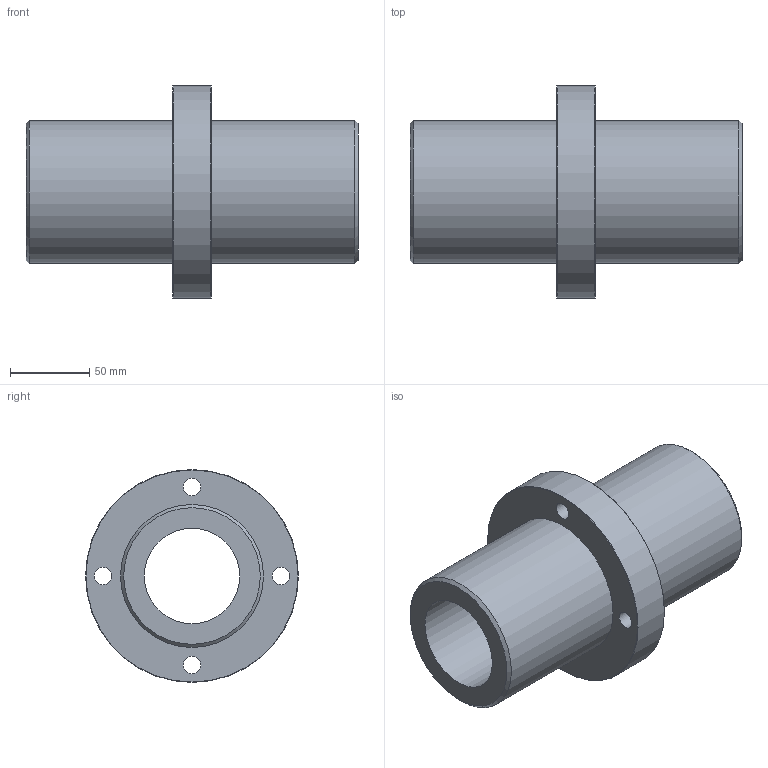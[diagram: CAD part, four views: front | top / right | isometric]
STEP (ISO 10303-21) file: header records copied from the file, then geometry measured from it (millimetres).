
FILE_DESCRIPTION(('STEP AP203'),'1');
FILE_NAME('//192.168.1.1/share/s-4 技術開発/s-4-4_CAD/s-4-4-3_見直し済み/PBC LINEAR修正済み/CFPJ/CFPJ_TOP/CFPJR/CFPJR60.step','2022-03-24T04:21:12',(' '),(' '),'Spatial InterOp 3D',' ',' ');
FILE_SCHEMA(('CONFIG_CONTROL_DESIGN'));
Length unit declared in the file: millimetre
Products named in the file (1): 1
Bounding box: 209 x 134 x 134 mm (x, y, z)
Volume: 908325.2 mm3; surface area: 126952.6 mm2
Topology: 1 solids, 1 shells, 24 faces, 50 edges, 34 vertices
Faces by surface type: cylinder 12, plane 8, cone 4
Full cylindrical faces by diameter (mm): 11 x4, 17 x4, 60 x1, 90 x2, 134 x1
Entity records: 588 total; most frequent: DIRECTION 106, CARTESIAN_POINT 81, EDGE_LOOP 56, ORIENTED_EDGE 56, AXIS2_PLACEMENT_3D 53, FACE_OUTER_BOUND 36, EDGE_CURVE 28, VERTEX_POINT 28
